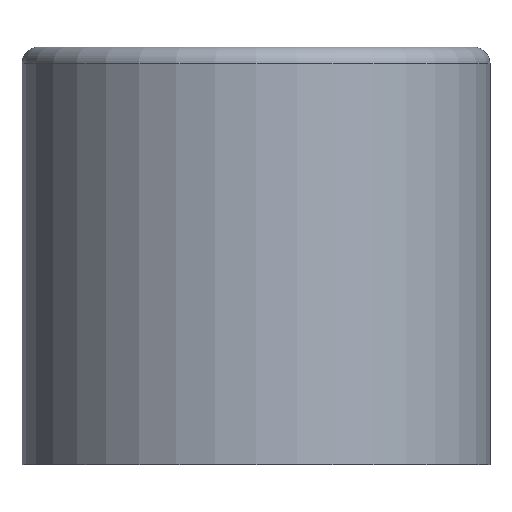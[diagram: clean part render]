
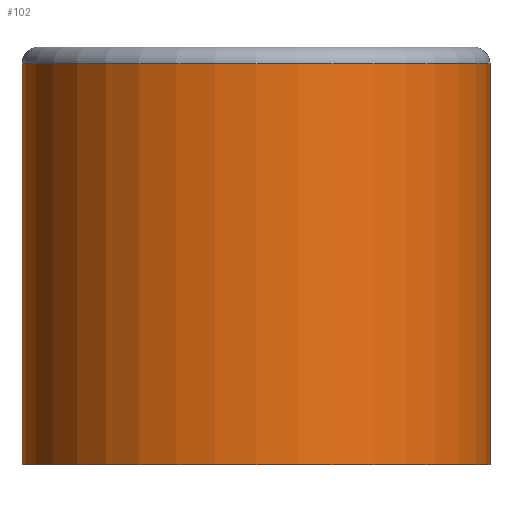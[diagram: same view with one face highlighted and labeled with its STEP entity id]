
A CAD part, front view. The second image highlights one B-rep face of the part: STEP entity #102.
In plain terms, the highlighted cylindrical face has radius 14 mm (diameter 28 mm), a full revolution.
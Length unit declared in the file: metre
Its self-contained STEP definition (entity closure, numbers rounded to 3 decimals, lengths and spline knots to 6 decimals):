
#18=ORIENTED_EDGE('',*,*,#36,.F.);
#19=ORIENTED_EDGE('',*,*,#37,.T.);
#36=EDGE_CURVE('',#45,#45,#54,.T.);
#37=EDGE_CURVE('',#46,#46,#55,.T.);
#45=VERTEX_POINT('',#183);
#46=VERTEX_POINT('',#185);
#54=CIRCLE('',#125,0.014);
#55=CIRCLE('',#126,0.014);
#63=EDGE_LOOP('',(#18));
#64=EDGE_LOOP('',(#19));
#81=FACE_BOUND('',#63,.T.);
#82=FACE_BOUND('',#64,.T.);
#99=CYLINDRICAL_SURFACE('',#124,0.014);
#102=ADVANCED_FACE('',(#81,#82),#99,.T.);
#124=AXIS2_PLACEMENT_3D('',#181,#144,#145);
#125=AXIS2_PLACEMENT_3D('',#182,#146,#147);
#126=AXIS2_PLACEMENT_3D('',#184,#148,#149);
#144=DIRECTION('',(0.,0.,1.));
#145=DIRECTION('',(1.,0.,0.));
#146=DIRECTION('',(0.,0.,1.));
#147=DIRECTION('',(1.,0.,0.));
#148=DIRECTION('',(0.,0.,1.));
#149=DIRECTION('',(1.,0.,0.));
#181=CARTESIAN_POINT('',(0.,0.,0.006));
#182=CARTESIAN_POINT('',(0.,0.,0.024));
#183=CARTESIAN_POINT('',(0.014,0.,0.024));
#184=CARTESIAN_POINT('',(0.,0.,0.));
#185=CARTESIAN_POINT('',(0.014,0.,0.));
